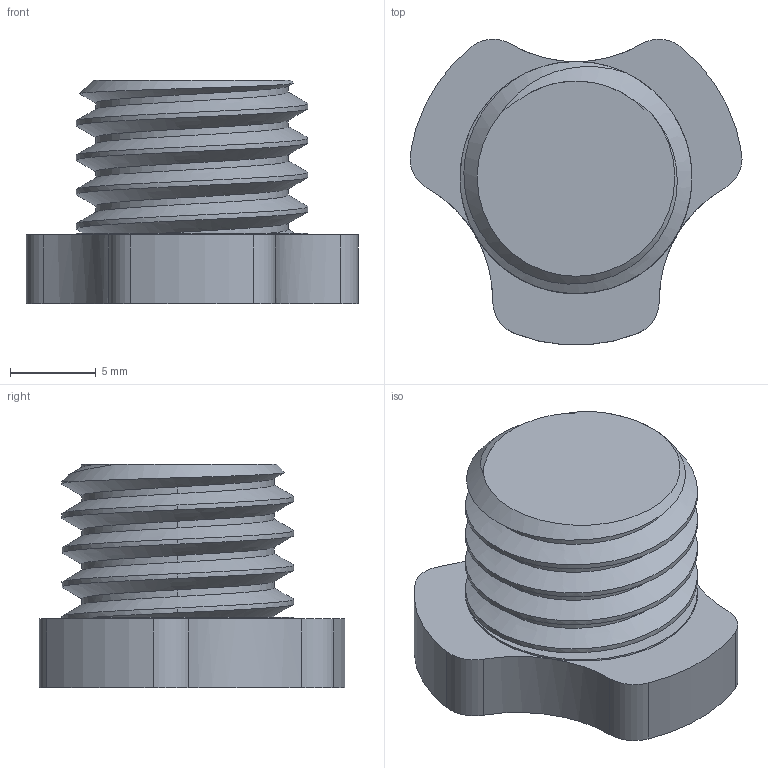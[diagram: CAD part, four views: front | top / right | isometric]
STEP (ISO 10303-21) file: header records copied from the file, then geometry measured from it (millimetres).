
FILE_DESCRIPTION(/* description */ ('','CAx-IF Rec.Pracs.---Representation and Presentation of Product Manufacturing Information (PMI)---4.0---2014-10-13'),/* implementation_level */ '2;1');
FILE_NAME(/* name */ 'Goews Bolt 9mm Standard.step',/* time_stamp */ '2024-11-27T21:04:07-05:00',/* author */ (''),/* organization */ (''),/* preprocessor_version */ 'ST-DEVELOPER v20',/* originating_system */ 'Autodesk Translation Framework v13.20.0.188',/* authorisation */ '');
FILE_SCHEMA (('AP242_MANAGED_MODEL_BASED_3D_ENGINEERING_MIM_LF { 1 0 10303 442 1 1 4 }'));
Length unit declared in the file: millimetre
Products named in the file (1): Goews Bolt Parametric
Bounding box: 19.35 x 17.81 x 13 mm (x, y, z)
Volume: 1809.3 mm3; surface area: 1367.6 mm2
Topology: 1 solids, 1 shells, 44 faces, 114 edges, 73 vertices
Faces by surface type: cylinder 22, plane 19, bspline 2, cone 1
Full cylindrical faces by diameter (mm): 11.234 x3, 13.522 x4
Entity records: 2919 total; most frequent: CARTESIAN_POINT 1833, ORIENTED_EDGE 228, DIRECTION 211, EDGE_CURVE 114, AXIS2_PLACEMENT_3D 80, VERTEX_POINT 73, LINE 51, VECTOR 51
